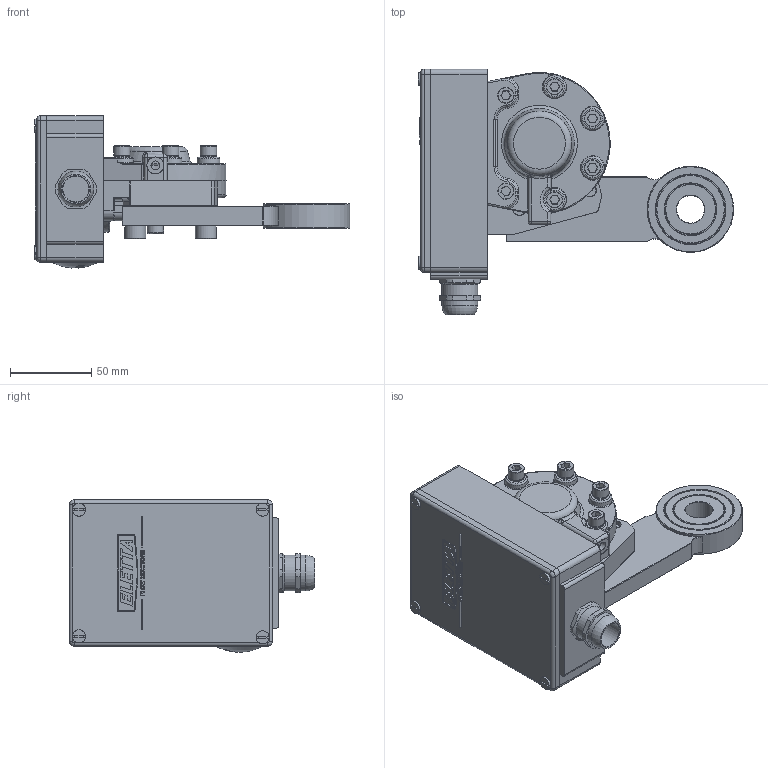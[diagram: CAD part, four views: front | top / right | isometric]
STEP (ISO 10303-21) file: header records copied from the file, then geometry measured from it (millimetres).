
FILE_DESCRIPTION(/* description */ ('Alibre Inc.'),/* implementation_level */ '2;1');
FILE_NAME(/* name */ 'export0',/* time_stamp */ '2012-10-19T13:16:55+02:00',/* author */ (''),/* organization */ (''),/* preprocessor_version */ 'ST-DEVELOPER v14',/* originating_system */ 'Alibre',/* authorisation */ '');
FILE_SCHEMA (('CONFIG_CONTROL_DESIGN'));
Length unit declared in the file: centimetre
Products named in the file (12): ID_1; ID_2; ID_3; ID_4; ID_5; ID_6; ID_7; ID_8
Bounding box: 193.97 x 151 x 93.66 mm (x, y, z)
Volume: 338765.3 mm3; surface area: 158496.2 mm2
Topology: 21 solids, 21 shells, 1087 faces, 2574 edges, 1597 vertices
Faces by surface type: plane 530, cylinder 233, bspline 162, cone 84, torus 70, sphere 8
Full cylindrical faces by diameter (mm): 3.9 x2, 5 x22, 5.5 x1, 5.541 x2, 6 x14, 6.038 x2, 6.5 x6, 8 x9, 8.5 x2, 9.6 x6, 10 x11, 10.5 x1, 12 x3, 13 x2, 14 x3, 16 x1, 17 x1, 17.966 x1, 19.5 x1, 22 x2, 22.5 x4, 29 x1, 31 x3, 32 x2, 42 x2, 43 x2, 53 x1
Entity records: 34574 total; most frequent: CARTESIAN_POINT 14248, ORIENTED_EDGE 3984, DIRECTION 3180, EDGE_CURVE 1992, VERTEX_POINT 1335, AXIS2_PLACEMENT_3D 1295, EDGE_LOOP 1167, FACE_BOUND 1167
